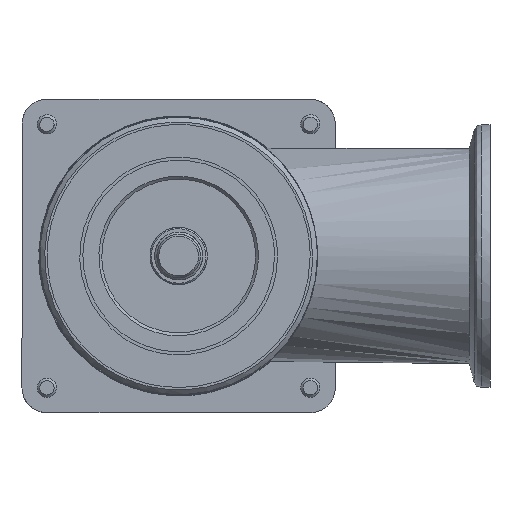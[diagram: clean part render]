
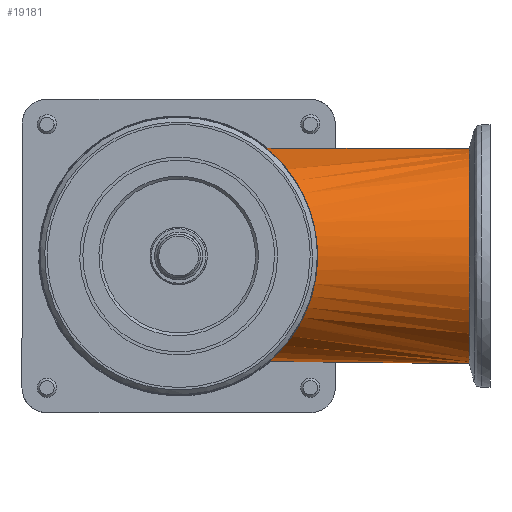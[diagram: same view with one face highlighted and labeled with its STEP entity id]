
A CAD part, front view. The second image highlights one B-rep face of the part: STEP entity #19181.
In plain terms, the highlighted free-form (B-spline) face has degree [2, 1] with [7, 2] control points.
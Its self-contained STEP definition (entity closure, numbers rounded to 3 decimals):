
#19074=CARTESIAN_POINT('V3',(4.326,22.5,
   0.0));
#19075=VERTEX_POINT('V3',#19074);
#19081=CARTESIAN_POINT('E5',(4.326,22.5,
   0.0));
#19082=CARTESIAN_POINT('E5',(4.326,22.5,
   38.971));
#19083=CARTESIAN_POINT('E5',(4.326,-11.25,
   19.486));
#19084=CARTESIAN_POINT('E5',(4.326,-45.,
   0.));
#19085=CARTESIAN_POINT('E5',(4.326,-11.25,
   -19.486));
#19086=CARTESIAN_POINT('E5',(4.326,22.5,
   -38.971));
#19087=CARTESIAN_POINT('E5',(4.326,22.5,
   0.0));
#19095=(BOUNDED_CURVE()B_SPLINE_CURVE(2,(#19081,#19082,#19083,
   #19084,#19085,#19086,#19087),.CIRCULAR_ARC.,.T.,.U.)
   B_SPLINE_CURVE_WITH_KNOTS((3,2,2,3),(0.0,1.785,
   3.569,5.354),.UNSPECIFIED.)CURVE()
   GEOMETRIC_REPRESENTATION_ITEM()RATIONAL_B_SPLINE_CURVE((1.0,
   0.5,1.0,0.5,1.0,0.5,1.0)
   )REPRESENTATION_ITEM('E5'));
#19096=EDGE_CURVE('E5',#19075,#19075,#19095,.T.);
#19103=CARTESIAN_POINT('F7',(4.326,22.5,
   0.0));
#19104=CARTESIAN_POINT('F7',(4.326,22.5,
   38.971));
#19105=CARTESIAN_POINT('F7',(4.326,-11.25,
   19.486));
#19106=CARTESIAN_POINT('F7',(4.326,-45.,
   0.));
#19107=CARTESIAN_POINT('F7',(4.326,-11.25,
   -19.486));
#19108=CARTESIAN_POINT('F7',(4.326,22.5,
   -38.971));
#19109=CARTESIAN_POINT('F7',(4.326,22.5,
   0.0));
#19110=CARTESIAN_POINT('F7',(48.,22.5,
   0.0));
#19111=CARTESIAN_POINT('F7',(48.,22.5,
   38.971));
#19112=CARTESIAN_POINT('F7',(48.,-11.25,
   19.486));
#19113=CARTESIAN_POINT('F7',(48.,-45.,
   0.));
#19114=CARTESIAN_POINT('F7',(48.,-11.25,
   -19.486));
#19115=CARTESIAN_POINT('F7',(48.,22.5,
   -38.971));
#19116=CARTESIAN_POINT('F7',(48.,22.5,
   0.0));
#19124=(BOUNDED_SURFACE()B_SPLINE_SURFACE(2,1,((#19103,#19110),(
   #19104,#19111),(#19105,#19112),(#19106,#19113),(#19107,
   #19114),(#19108,#19115),(#19109,#19116)),.CYLINDRICAL_SURF.,
   .T.,.F.,.U.)B_SPLINE_SURFACE_WITH_KNOTS((3,2,2,3),(2,2),(0.0,
   1.785,3.569,5.354),(0.0,1.0),
   .UNSPECIFIED.)GEOMETRIC_REPRESENTATION_ITEM()
   RATIONAL_B_SPLINE_SURFACE(((1.0,1.0),(0.5,
   0.5),(1.0,1.0),(0.5,
   0.5),(1.0,1.0),(0.5,
   0.5),(1.0,1.0)))REPRESENTATION_ITEM('F7')SURFACE()
   );
#19125=CARTESIAN_POINT('V8',(36.,22.5,
   0.0));
#19126=VERTEX_POINT('V8',#19125);
#19127=CARTESIAN_POINT('E12',(36.,22.5,
   0.0));
#19128=CARTESIAN_POINT('E12',(36.,22.5,
   -1.358));
#19129=CARTESIAN_POINT('E12',(36.096,22.377,
   -2.705));
#19130=CARTESIAN_POINT('E12',(36.726,21.559,
   -7.203));
#19131=CARTESIAN_POINT('E12',(37.643,20.362,
   -9.921));
#19132=CARTESIAN_POINT('E12',(39.999,17.088,
   -15.045));
#19133=CARTESIAN_POINT('E12',(41.626,14.696,
   -17.298));
#19134=CARTESIAN_POINT('E12',(44.454,9.594,
   -20.584));
#19135=CARTESIAN_POINT('E12',(45.771,6.657,
   -21.722));
#19136=CARTESIAN_POINT('E12',(46.507,2.793,
   -22.339));
#19137=CARTESIAN_POINT('E12',(46.608,2.027,
   -22.422));
#19138=CARTESIAN_POINT('E12',(46.713,0.494,
   -22.507));
#19139=CARTESIAN_POINT('E12',(46.718,-0.262,
   -22.511));
#19140=CARTESIAN_POINT('E12',(46.595,-2.461,
   -22.411));
#19141=CARTESIAN_POINT('E12',(46.347,-3.859,
   -22.21));
#19142=CARTESIAN_POINT('E12',(45.608,-6.553,
   -21.569));
#19143=CARTESIAN_POINT('E12',(45.124,-7.843,
   -21.132));
#19144=CARTESIAN_POINT('E12',(43.257,-12.045,
   -19.28));
#19145=CARTESIAN_POINT('E12',(41.451,-14.925,
   -17.238));
#19146=CARTESIAN_POINT('E12',(38.449,-19.296,
   -11.99));
#19147=CARTESIAN_POINT('E12',(37.103,-21.066,
   -8.829));
#19148=CARTESIAN_POINT('E12',(36.054,-22.432,
   -2.826));
#19149=CARTESIAN_POINT('E12',(35.919,-22.604,
   -0.591));
#19150=CARTESIAN_POINT('E12',(36.146,-22.312,
   3.387));
#19151=CARTESIAN_POINT('E12',(36.399,-21.985,
   5.078));
#19152=CARTESIAN_POINT('E12',(37.458,-20.595,
   9.536));
#19153=CARTESIAN_POINT('E12',(38.482,-19.227,
   11.951));
#19154=CARTESIAN_POINT('E12',(41.265,-15.223,
   17.038));
#19155=CARTESIAN_POINT('E12',(43.22,-12.152,
   19.248));
#19156=CARTESIAN_POINT('E12',(45.614,-6.723,
   21.614));
#19157=CARTESIAN_POINT('E12',(46.48,-4.084,
   22.317));
#19158=CARTESIAN_POINT('E12',(46.759,0.274,
   22.545));
#19159=CARTESIAN_POINT('E12',(46.678,1.703,
   22.481));
#19160=CARTESIAN_POINT('E12',(45.974,5.887,
   21.895));
#19161=CARTESIAN_POINT('E12',(44.933,8.481,
   21.007));
#19162=CARTESIAN_POINT('E12',(42.381,13.502,
   18.26));
#19163=CARTESIAN_POINT('E12',(40.673,16.101,
   16.113));
#19164=CARTESIAN_POINT('E12',(38.111,19.735,
   11.121));
#19165=CARTESIAN_POINT('E12',(37.094,21.077,
   8.492));
#19166=CARTESIAN_POINT('E12',(36.175,22.276,
   3.648));
#19167=CARTESIAN_POINT('E12',(36.,22.5,
   1.836));
#19168=CARTESIAN_POINT('E12',(36.,22.5,
   0.0));
#19169=B_SPLINE_CURVE_WITH_KNOTS('E12',3,(#19127,#19128,#19129,
   #19130,#19131,#19132,#19133,#19134,#19135,#19136,#19137,#19138,
   #19139,#19140,#19141,#19142,#19143,#19144,#19145,#19146,#19147,
   #19148,#19149,#19150,#19151,#19152,#19153,#19154,#19155,#19156,
   #19157,#19158,#19159,#19160,#19161,#19162,#19163,#19164,#19165,
   #19166,#19167,#19168),.UNSPECIFIED.,.T.,.U.,(4,2,2,2,2,2,2,2,2,2,
   2,2,2,2,2,2,2,2,2,2,4),(0.0,0.023,0.08,
   0.155,0.232,0.251,
   0.269,0.304,0.338,
   0.421,0.492,0.531,
   0.562,0.616,0.701,
   0.762,0.792,0.851,
   0.92,0.971,1.0),.UNSPECIFIED.);
#19170=EDGE_CURVE('E12',#19126,#19126,#19169,.T.);
#19171=ORIENTED_EDGE('E12',*,*,#19170,.F.);
#19172=CARTESIAN_POINT('E13',(36.,22.5,
   0.0));
#19173=CARTESIAN_POINT('E13',(4.326,22.5,
   0.0));
#19174=B_SPLINE_CURVE_WITH_KNOTS('E13',1,(#19172,#19173),
   .POLYLINE_FORM.,.F.,.U.,(2,2),(0.275,1.0),
   .UNSPECIFIED.);
#19175=EDGE_CURVE('E13',#19126,#19075,#19174,.T.);
#19176=ORIENTED_EDGE('E13',*,*,#19175,.T.);
#19177=ORIENTED_EDGE('E5',*,*,#19096,.F.);
#19178=ORIENTED_EDGE('E13',*,*,#19175,.F.);
#19179=EDGE_LOOP('F7',(#19171,#19176,#19177,#19178));
#19180=FACE_OUTER_BOUND('F7',#19179,.F.);
#19181=ADVANCED_FACE('F7',(#19180),#19124,.T.);
